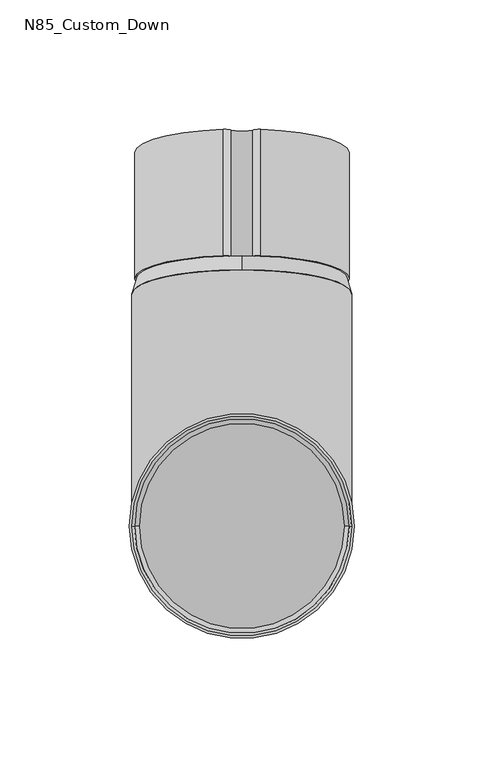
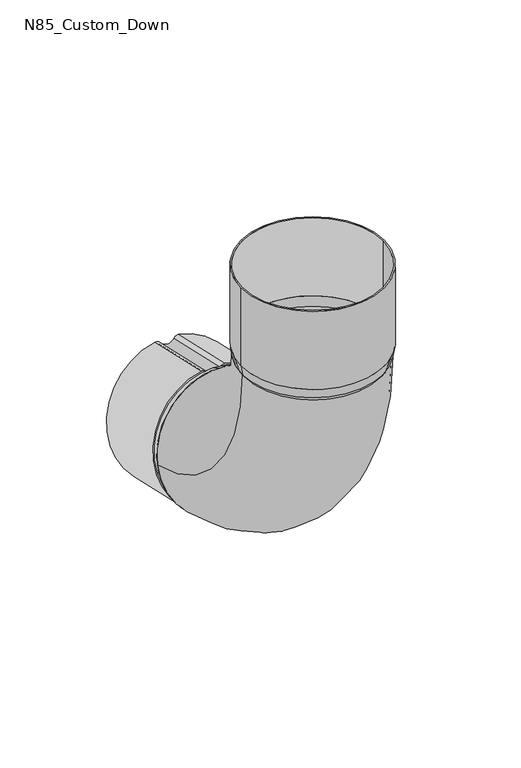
"""IFC4 building model written with IfcOpenShell, lengths in millimetres: proxy geometry, GROVIK_Downpipe_Elbow : N85_Custom_Down."""

from ifc_helpers import new_model, si_unit, point, frame, frame_2d, origin, origin_with_axes, origin_2d, place, context, project, spatial, polyline, circle_curve, ellipse_curve, trimmed, segment, composite_curve, outline, extrude, source, transform, mapped, element, save
from ifc_brep_helpers import plane_surface, revolved_surface, advanced_brep


def n85_custom_down_5131deac(model_context):
    return source(origin(), model_context, "Body", "SolidModel", [
        extrude(outline(composite_curve([segment(trimmed(circle_curve(origin_2d(), 41.5), [point((-7.1689075, -40.8761148))], [point((-7.1689075, 40.8761148))], False, "CARTESIAN"), True, "CONTINUOUS"), segment(trimmed(circle_curve(frame_2d((-6.6504209, 37.8351931)), 3.0848069), [point((-7.1689075, 40.8761148))], [point((-4.2037022, 39.7139163))], False, "CARTESIAN"), True, "CONTINUOUS"), segment(trimmed(circle_curve(frame_2d((0.0, 42.9417466)), 5.3), [point((-4.2037022, 39.7139163))], [point((4.2058428, 39.716706))], True, "CARTESIAN"), True, "CONTINUOUS"), segment(trimmed(circle_curve(frame_2d((6.6465812, 37.8451475)), 3.0757007), [point((4.2058428, 39.716706))], [point((7.2, 40.8706496))], False, "CARTESIAN"), True, "CONTINUOUS"), segment(trimmed(circle_curve(origin_2d(), 41.5), [point((7.2, 40.8706496))], [point((7.2, -40.8706496))], False, "CARTESIAN"), True, "CONTINUOUS"), segment(trimmed(circle_curve(frame_2d((6.6465812, -37.8451476)), 3.0757007), [point((7.2, -40.8706496))], [point((4.2058428, -39.716706))], False, "CARTESIAN"), True, "CONTINUOUS"), segment(trimmed(circle_curve(frame_2d((0.0, -42.9417465)), 5.3), [point((4.2058428, -39.716706))], [point((-4.2037022, -39.7139163))], True, "CARTESIAN"), True, "CONTINUOUS"), segment(trimmed(circle_curve(frame_2d((-6.6504209, -37.8351932)), 3.0848069), [point((-4.2037022, -39.7139163))], [point((-7.1689075, -40.8761148))], False, "CARTESIAN"), True, "CONTINUOUS")], self_intersect=False), holes=[composite_curve([segment(trimmed(circle_curve(frame_2d((-6.6504209, -37.8351932)), 2.0848069), [point((-6.9987091, -39.8907016))], [point((-4.9968535, -39.1048918))], True, "CARTESIAN"), True, "CONTINUOUS"), segment(trimmed(circle_curve(frame_2d((0.0, -42.9417465)), 6.3), [point((-4.9968535, -39.1048918))], [point((4.999398, -39.1082078))], False, "CARTESIAN"), True, "CONTINUOUS"), segment(trimmed(circle_curve(frame_2d((6.6465812, -37.8451476)), 2.0757007), [point((4.999398, -39.1082078))], [point((7.0229886, -39.8864342))], True, "CARTESIAN"), True, "CONTINUOUS"), segment(trimmed(circle_curve(origin_2d(), 40.5), [point((7.0229886, -39.8864342))], [point((6.9882501, 39.8925352))], True, "CARTESIAN"), True, "CONTINUOUS"), segment(trimmed(circle_curve(frame_2d((6.6465812, 37.8451475)), 2.0757007), [point((6.9882501, 39.8925352))], [point((4.999398, 39.1082077))], True, "CARTESIAN"), True, "CONTINUOUS"), segment(trimmed(circle_curve(frame_2d((0.0, 42.9417466)), 6.3), [point((4.999398, 39.1082077))], [point((-4.9968535, 39.1048917))], False, "CARTESIAN"), True, "CONTINUOUS"), segment(trimmed(circle_curve(frame_2d((-6.6504209, 37.8351931)), 2.0848069), [point((-4.9968535, 39.1048917))], [point((-6.9987091, 39.8907015))], True, "CARTESIAN"), True, "CONTINUOUS"), segment(trimmed(circle_curve(origin_2d(), 40.5), [point((-6.9987091, 39.8907015))], [point((-6.9987091, -39.8907016))], True, "CARTESIAN"), True, "CONTINUOUS")], self_intersect=False)]), frame((0.0, 144.3258915, -124.5029802), z_axis=(0.0, -0.975496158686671, 0.22001646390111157), x_axis=(1.0, 0.0, 0.0)), (0.0, 0.0, 1.0), 50.0),
        extrude(outline(composite_curve([segment(trimmed(circle_curve(origin_2d(), 43.5), [point((-43.5, 0.0))], [point((43.5, 0.0))], False, "CARTESIAN"), True, "CONTINUOUS"), segment(trimmed(circle_curve(origin_2d(), 43.5), [point((43.5, 0.0))], [point((-43.5, 0.0))], False, "CARTESIAN"), True, "CONTINUOUS")], self_intersect=False), holes=[composite_curve([segment(trimmed(circle_curve(origin_2d(), 42.5), [point((-42.5, 0.0))], [point((42.5, 0.0))], True, "CARTESIAN"), True, "CONTINUOUS"), segment(trimmed(circle_curve(origin_2d(), 42.5), [point((42.5, 0.0))], [point((-42.5, 0.0))], True, "CARTESIAN"), True, "CONTINUOUS")], self_intersect=False)]), frame((0.0, 0.0, 6.0), z_axis=(0.0, 0.0, 1.0), x_axis=(1.0, 0.0, 0.0)), (0.0, 0.0, 1.0), 50.0),
        advanced_brep(
        [(-42.5, 0.0, 0.0), (42.5, 0.0, 0.0), (41.5, 0.0, 0.0), (-41.5, 0.0, 0.0), (-43.5, 0.0, 6.0), (43.5, 0.0, 6.0), (-42.5, 0.0, 6.0), (42.5, 0.0, 6.0)],
        [
            (0, 1, circle_curve(frame((0.0, 0.0, 0.0), z_axis=(0.0, 0.0, -1.0), x_axis=(-1.0, 0.0, 0.0)), 42.5)),
            (1, 0, circle_curve(frame((0.0, 0.0, 0.0), z_axis=(0.0, 0.0, -1.0), x_axis=(1.0, 0.0, 0.0)), 42.5)),
            (2, 3, circle_curve(frame((0.0, 0.0, 0.0), z_axis=(0.0, 0.0, 1.0), x_axis=(-1.0, 0.0, 0.0)), 41.5)),
            (3, 2, circle_curve(origin_with_axes(), 41.5)),
            (4, 5, circle_curve(frame((0.0, 0.0, 6.0), z_axis=(0.0, 0.0, 1.0), x_axis=(1.0, 0.0, 0.0)), 43.5)),
            (5, 4, circle_curve(frame((0.0, 0.0, 6.0), z_axis=(0.0, 0.0, 1.0), x_axis=(-1.0, 0.0, 0.0)), 43.5)),
            (6, 7, circle_curve(frame((0.0, 0.0, 6.0), z_axis=(0.0, 0.0, -1.0), x_axis=(-1.0, 0.0, 0.0)), 42.5)),
            (7, 6, circle_curve(frame((0.0, 0.0, 6.0), z_axis=(0.0, 0.0, -1.0), x_axis=(1.0, 0.0, 0.0)), 42.5)),
            (0, 4),
            (5, 1),
            (6, 3),
            (2, 7),
        ],
        [
            plane_surface(frame((0.0, 0.0, 0.0), z_axis=(0.0, 0.0, -1.0), x_axis=(0.0, 1.0, 0.0))),
            plane_surface(frame((0.0, 0.0, 6.0), z_axis=(0.0, 0.0, 1.0), x_axis=(0.0, 1.0, 0.0))),
            revolved_surface(polyline([(-42.5, 0.0, 0.0), (-43.5, 0.0, 6.0)]), (0.0, 0.0, -255.0), (0.0, 0.0, 1.0)),
            revolved_surface(polyline([(42.5, 0.0, 0.0), (43.5, 0.0, 6.0)]), (0.0, 0.0, -255.0), (0.0, 0.0, 1.0)),
            revolved_surface(polyline([(-42.5, 0.0, 6.0), (-41.5, 0.0, 0.0)]), (0.0, 0.0, -249.0), (0.0, 0.0, 1.0)),
        ],
        [
            (0, [[1, 2], [3, 4]]),
            (1, [[5, 6], [7, 8]]),
            (2, [[-1, 9, -6, 10]]),
            (3, [[-2, -10, -5, -9]]),
            (4, [[11, -3, 12, -7]]),
            (4, [[-11, -8, -12, -4]]),
        ],
    ),
        advanced_brep(
        [(0.0, 86.5964135, -153.2048507), (0.0, 104.5057537, -73.7994634), (0.0, 104.2857372, -74.7749595), (0.0, 86.81643, -152.2293545), (0.0, 80.3474069, -153.640645), (0.0, 99.0488064, -70.7234715), (0.0, 80.5674234, -152.6651488), (0.0, 98.8287899, -71.6989677)],
        [
            (0, 1, circle_curve(frame((0.0, 95.5510836, -113.502157), z_axis=(0.0, 0.9754961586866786, -0.22001646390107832), x_axis=(0.0, -0.22001646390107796, -0.9754961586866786)), 40.7)),
            (1, 0, circle_curve(frame((0.0, 95.5510836, -113.502157), z_axis=(0.0, 0.9754961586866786, -0.22001646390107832), x_axis=(0.0, 0.22001646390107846, 0.9754961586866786)), 40.7)),
            (2, 3, circle_curve(frame((0.0, 95.5510836, -113.502157), z_axis=(0.0, -0.9754961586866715, 0.22001646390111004), x_axis=(0.0, -0.22001646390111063, -0.9754961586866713)), 39.7)),
            (3, 2, circle_curve(frame((0.0, 95.5510836, -113.502157), z_axis=(0.0, -0.9754961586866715, 0.22001646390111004), x_axis=(0.0, 0.22001646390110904, 0.9754961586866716)), 39.7)),
            (4, 5, circle_curve(frame((0.0, 89.6981067, -112.1820582), z_axis=(0.0, -0.9754961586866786, 0.22001646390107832), x_axis=(0.0, 0.22001646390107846, 0.9754961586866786)), 42.5)),
            (5, 4, circle_curve(frame((0.0, 89.6981067, -112.1820582), z_axis=(0.0, -0.9754961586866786, 0.22001646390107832), x_axis=(0.0, -0.22001646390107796, -0.9754961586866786)), 42.5)),
            (6, 7, circle_curve(frame((0.0, 89.6981067, -112.1820582), z_axis=(0.0, 0.9754961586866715, -0.22001646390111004), x_axis=(0.0, -0.22001646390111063, -0.9754961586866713)), 41.5)),
            (7, 6, circle_curve(frame((0.0, 89.6981067, -112.1820582), z_axis=(0.0, 0.9754961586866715, -0.22001646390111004), x_axis=(0.0, 0.22001646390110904, 0.9754961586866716)), 41.5)),
            (0, 4),
            (5, 1),
            (6, 3),
            (2, 7),
        ],
        [
            plane_surface(frame((0.0, 95.5510836, -113.502157), z_axis=(0.0, 0.9754961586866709, -0.22001646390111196), x_axis=(-1.0, 0.0, 0.0))),
            plane_surface(frame((0.0, 89.6981067, -112.1820582), z_axis=(0.0, -0.9754961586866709, 0.2200164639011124), x_axis=(-1.0, 0.0, 0.0))),
            revolved_surface(polyline([(0.0, 86.5964135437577, -153.20485069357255), (0.0, 80.34740690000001, -153.640645)]), (0.0, 227.8933958, -143.3510573), (0.0, -0.9754961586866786, 0.22001646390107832)),
            revolved_surface(polyline([(0.0, 104.50575370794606, -73.79946336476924), (0.0, 99.04880634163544, -70.72347146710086)]), (0.0, 227.8933958, -143.3510573), (0.0, -0.9754961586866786, 0.22001646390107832)),
            revolved_surface(polyline([(0.0, 80.5674234, -152.6651488), (0.0, 86.81643000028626, -152.2293544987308)]), (0.0, 224.6417419, -142.6176691), (0.0, -0.9754961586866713, 0.22001646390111)),
        ],
        [
            (0, [[1, 2], [3, 4]]),
            (1, [[5, 6], [7, 8]]),
            (2, [[-1, 9, -6, 10]]),
            (3, [[-2, -10, -5, -9]]),
            (4, [[11, -3, 12, -7]]),
            (4, [[-11, -8, -12, -4]]),
        ],
    ),
        advanced_brep(
        [(-40.7, 0.0, -6.0), (40.7, 0.0, -6.0), (-39.7, 0.0, -6.0), (39.7, 0.0, -6.0), (-42.5, 0.0, 0.0), (42.5, 0.0, 0.0), (41.5, 0.0, 0.0), (-41.5, 0.0, 0.0)],
        [
            (0, 1, circle_curve(frame((0.0, 0.0, -6.0), z_axis=(0.0, 0.0, -1.0), x_axis=(-1.0, 0.0, 0.0)), 40.7)),
            (1, 0, circle_curve(frame((0.0, 0.0, -6.0), z_axis=(0.0, 0.0, -1.0), x_axis=(1.0, 0.0, 0.0)), 40.7)),
            (2, 3, circle_curve(frame((0.0, 0.0, -6.0), z_axis=(0.0, 0.0, 1.0), x_axis=(1.0, 0.0, 0.0)), 39.7)),
            (3, 2, circle_curve(frame((0.0, 0.0, -6.0), z_axis=(0.0, 0.0, 1.0), x_axis=(-1.0, 0.0, 0.0)), 39.7)),
            (4, 5, circle_curve(origin_with_axes(), 42.5)),
            (5, 4, circle_curve(frame((0.0, 0.0, 0.0), z_axis=(0.0, 0.0, 1.0), x_axis=(-1.0, 0.0, 0.0)), 42.5)),
            (6, 7, circle_curve(frame((0.0, 0.0, 0.0), z_axis=(0.0, 0.0, -1.0), x_axis=(1.0, 0.0, 0.0)), 41.5)),
            (7, 6, circle_curve(frame((0.0, 0.0, 0.0), z_axis=(0.0, 0.0, -1.0), x_axis=(-1.0, 0.0, 0.0)), 41.5)),
            (1, 5),
            (4, 0),
            (6, 3),
            (2, 7),
        ],
        [
            plane_surface(frame((0.0, 0.0, -6.0), z_axis=(0.0, 0.0, -1.0), x_axis=(0.0, 1.0, 0.0))),
            plane_surface(frame((0.0, 0.0, 0.0), z_axis=(0.0, 0.0, 1.0), x_axis=(0.0, 1.0, 0.0))),
            revolved_surface(polyline([(40.70000000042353, 0.0, -6.0), (42.5, 0.0, 0.0)]), (0.0, 0.0, -141.6666667), (0.0, 0.0, 1.0)),
            revolved_surface(polyline([(-40.70000000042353, 0.0, -6.0), (-42.5, 0.0, 0.0)]), (0.0, 0.0, -141.6666667), (0.0, 0.0, 1.0)),
            revolved_surface(polyline([(41.5, 0.0, 0.0), (39.699999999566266, 0.0, -6.0)]), (0.0, 0.0, -138.3333333), (0.0, 0.0, 1.0)),
        ],
        [
            (0, [[1, 2], [3, 4]]),
            (1, [[5, 6], [7, 8]]),
            (2, [[-2, 9, -5, 10]]),
            (3, [[-1, -10, -6, -9]]),
            (4, [[11, -3, 12, -7]]),
            (4, [[-11, -8, -12, -4]]),
        ],
    ),
        advanced_brep(
        [(-42.5, 0.0, 0.0), (42.5, 0.0, 0.0), (-41.5, 0.0, 0.0), (41.5, 0.0, 0.0), (-42.5, 89.6981067, -112.1820582), (42.5, 89.6981067, -112.1820582), (-41.5, 89.6981067, -112.1820582), (41.5, 89.6981067, -112.1820582)],
        [
            (0, 1, circle_curve(origin_with_axes(), 42.5)),
            (1, 0, circle_curve(origin_with_axes(), 42.5)),
            (2, 3, circle_curve(frame((0.0, 0.0, 0.0), z_axis=(0.0, 0.0, -1.0), x_axis=(1.0, 0.0, 0.0)), 41.5)),
            (3, 2, circle_curve(frame((0.0, 0.0, 0.0), z_axis=(0.0, 0.0, -1.0), x_axis=(1.0, 0.0, 0.0)), 41.5)),
            (4, 5, circle_curve(frame((0.0, 89.6981067, -112.1820582), z_axis=(0.0, 0.9754961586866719, -0.22001646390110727), x_axis=(1.0, 0.0, 0.0)), 42.5)),
            (5, 4, circle_curve(frame((0.0, 89.6981067, -112.1820582), z_axis=(0.0, 0.9754961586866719, -0.22001646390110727), x_axis=(1.0, 0.0, 0.0)), 42.5)),
            (6, 7, circle_curve(frame((0.0, 89.6981067, -112.1820582), z_axis=(0.0, -0.9754961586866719, 0.22001646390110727), x_axis=(1.0, 0.0, 0.0)), 41.5)),
            (7, 6, circle_curve(frame((0.0, 89.6981067, -112.1820582), z_axis=(0.0, -0.9754961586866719, 0.22001646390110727), x_axis=(1.0, 0.0, 0.0)), 41.5)),
            (7, 3, circle_curve(frame((41.5, 115.0, 0.0), z_axis=(-1.0, 0.0, 0.0), x_axis=(0.0, -1.0, 0.0)), 115.0)),
            (2, 6, circle_curve(frame((-41.5, 115.0, 0.0), z_axis=(1.0, 0.0, 0.0), x_axis=(0.0, -1.0, 0.0)), 115.0)),
            (5, 1, circle_curve(frame((42.5, 115.0, 0.0), z_axis=(-1.0, 0.0, 0.0), x_axis=(0.0, -1.0, 0.0)), 115.0)),
            (0, 4, circle_curve(frame((-42.5, 115.0, 0.0), z_axis=(1.0, 0.0, 0.0), x_axis=(0.0, -1.0, 0.0)), 115.0)),
        ],
        [
            plane_surface(origin_with_axes()),
            plane_surface(frame((0.0, 89.6981067, -112.1820582), z_axis=(0.0, 0.975496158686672, -0.22001646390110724), x_axis=(1.0, 0.0, 0.0))),
            revolved_surface(trimmed(ellipse_curve(frame((0.0, 0.0, 0.0), z_axis=(0.0, 0.0, -1.0), x_axis=(1.0, 0.0, 0.0)), 41.5, 41.5), [point((-41.5, 0.0, 0.0))], [point((41.5, 0.0, 0.0))], True, "CARTESIAN"), (0.0, 115.0, 0.0), (1.0, 0.0, 0.0)),
            revolved_surface(trimmed(ellipse_curve(frame((0.0, 0.0, 0.0), z_axis=(0.0, 0.0, -1.0), x_axis=(1.0, 0.0, 0.0)), 41.5, 41.5), [point((41.5, 0.0, 0.0))], [point((-41.5, 0.0, 0.0))], True, "CARTESIAN"), (0.0, 115.0, 0.0), (1.0, 0.0, 0.0)),
            revolved_surface(trimmed(ellipse_curve(origin_with_axes(), 42.5, 42.5), [point((-42.5, 0.0, 0.0))], [point((42.5, 0.0, 0.0))], True, "CARTESIAN"), (0.0, 115.0, 0.0), (1.0, 0.0, 0.0)),
            revolved_surface(trimmed(ellipse_curve(origin_with_axes(), 42.5, 42.5), [point((42.5, 0.0, 0.0))], [point((-42.5, 0.0, 0.0))], True, "CARTESIAN"), (0.0, 115.0, 0.0), (1.0, 0.0, 0.0)),
        ],
        [
            (0, [[1, 2], [3, 4]]),
            (1, [[5, 6], [7, 8]]),
            (2, [[9, -3, 10, -8]]),
            (3, [[-10, -4, -9, -7]]),
            (4, [[11, -1, 12, -6]]),
            (5, [[-12, -2, -11, -5]]),
        ],
    ),
    ])


if __name__ == "__main__":
    model = new_model("IFC4")
    model_context = context("Model", 3, world=origin())
    ifc_project = project(units=[si_unit("LENGTHUNIT", "METRE", prefix="MILLI")], contexts=[model_context])
    site = spatial("IfcSite", under=ifc_project)
    building = spatial("IfcBuilding", under=site)
    placement = place(None, origin())
    n85_custom_down_shape = n85_custom_down_5131deac(model_context)
    element("IfcBuildingElementProxy", 1, Name="GROVIK_Downpipe_Elbow : N85_Custom_Down", ObjectType="GROVIK_Downpipe_Elbow : N85_Custom_Down", at=placement, inside=building, context=model_context, shape_type="MappedRepresentation", body=[
        mapped(n85_custom_down_shape, transform((0.0, 0.0, 0.0), x_axis=(1.0, 0.0, 0.0), y_axis=(0.0, 1.0, 0.0), z_axis=(0.0, 0.0, 1.0))),
    ])
    save(model, "model.ifc")
